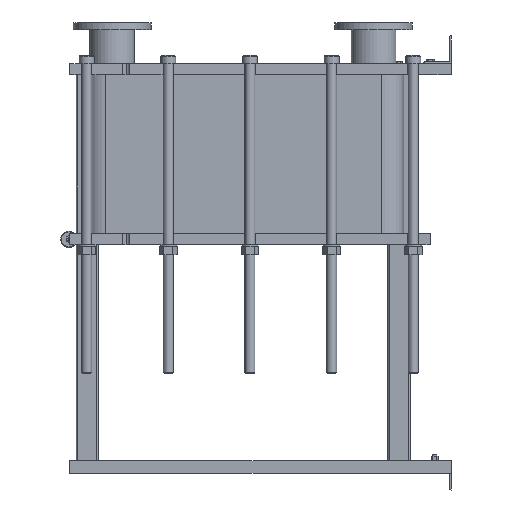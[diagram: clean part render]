
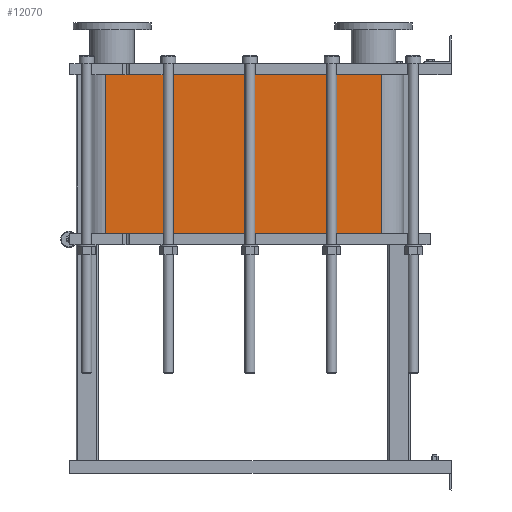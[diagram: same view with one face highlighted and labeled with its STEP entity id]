
A CAD part, left-side view. The second image highlights one B-rep face of the part: STEP entity #12070.
In plain terms, the highlighted planar face has unit normal (-1, 0, 0).
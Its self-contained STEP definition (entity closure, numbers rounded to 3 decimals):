
#1064=LINE('',#21140,#2164);
#1065=LINE('',#21144,#2165);
#1066=LINE('',#21146,#2166);
#1067=LINE('',#21147,#2167);
#2164=VECTOR('',#15790,10.);
#2165=VECTOR('',#15795,10.);
#2166=VECTOR('',#15796,10.);
#2167=VECTOR('',#15797,10.);
#3304=FACE_OUTER_BOUND('',#4091,.T.);
#4091=EDGE_LOOP('',(#9793,#9794,#9795,#9796));
#5677=VERTEX_POINT('',#21137);
#5678=VERTEX_POINT('',#21139);
#5679=VERTEX_POINT('',#21143);
#5680=VERTEX_POINT('',#21145);
#7118=EDGE_CURVE('',#5678,#5677,#1064,.T.);
#7120=EDGE_CURVE('',#5677,#5679,#1065,.T.);
#7121=EDGE_CURVE('',#5680,#5679,#1066,.T.);
#7122=EDGE_CURVE('',#5680,#5678,#1067,.T.);
#9793=ORIENTED_EDGE('',*,*,#7120,.T.);
#9794=ORIENTED_EDGE('',*,*,#7121,.F.);
#9795=ORIENTED_EDGE('',*,*,#7122,.T.);
#9796=ORIENTED_EDGE('',*,*,#7118,.T.);
#11441=PLANE('',#13191);
#12070=ADVANCED_FACE('',(#3304),#11441,.T.);
#13191=AXIS2_PLACEMENT_3D('',#21142,#15793,#15794);
#15790=DIRECTION('',(0.,0.,-1.));
#15793=DIRECTION('center_axis',(-1.,0.,0.));
#15794=DIRECTION('ref_axis',(0.,1.,0.));
#15795=DIRECTION('',(0.,-1.,0.));
#15796=DIRECTION('',(0.,0.,-1.));
#15797=DIRECTION('',(0.,1.,0.));
#21137=CARTESIAN_POINT('',(-248.152,1243.818,-572.7));
#21139=CARTESIAN_POINT('',(-248.152,1243.818,0.));
#21140=CARTESIAN_POINT('',(-248.152,1243.818,0.));
#21142=CARTESIAN_POINT('Origin',(-248.152,251.818,0.));
#21143=CARTESIAN_POINT('',(-248.152,251.818,-572.7));
#21144=CARTESIAN_POINT('',(-248.152,499.818,-572.7));
#21145=CARTESIAN_POINT('',(-248.152,251.818,0.));
#21146=CARTESIAN_POINT('',(-248.152,251.818,0.));
#21147=CARTESIAN_POINT('',(-248.152,251.818,0.));
